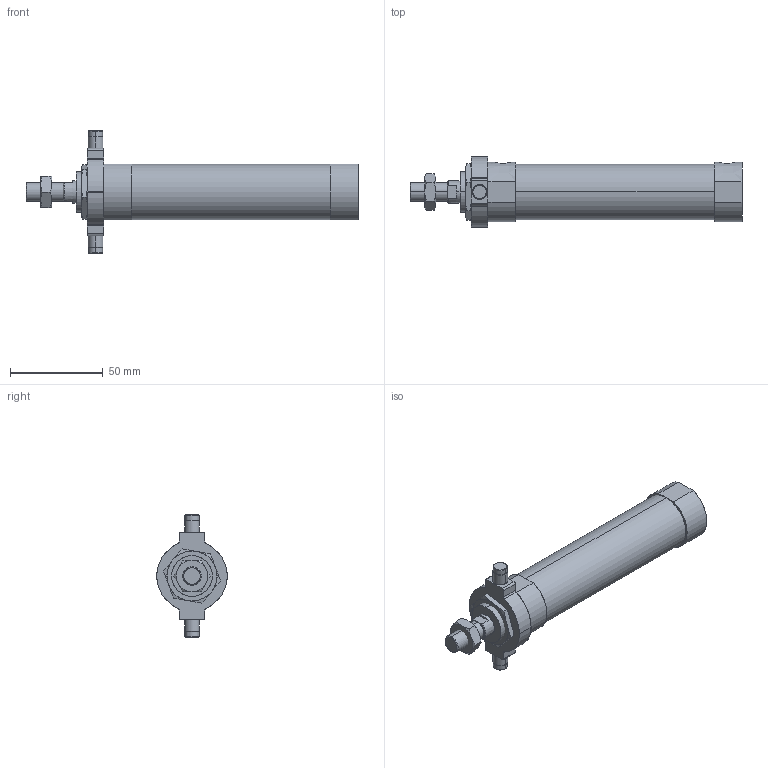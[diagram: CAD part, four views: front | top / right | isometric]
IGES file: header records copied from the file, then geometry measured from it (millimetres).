
Start section: SolidWorks IGES file using analytic representation for surfaces
Global section: file name: C:\Users\Toshiba\Desktop\JGND2-25-75-T.IGS; native system: SolidWorks 2014; preprocessor: SolidWorks 2014; author: Toshiba; date: 160804.103850; units: millimetre
Bounding box: 179 x 38 x 66 mm (x, y, z)
Surface area: 23997.2 mm2 (no closed solid volume)
Topology: 0 solids, 0 shells, 128 faces, 2096 edges, 2092 vertices
Faces by surface type: bspline 69, revolution 59
